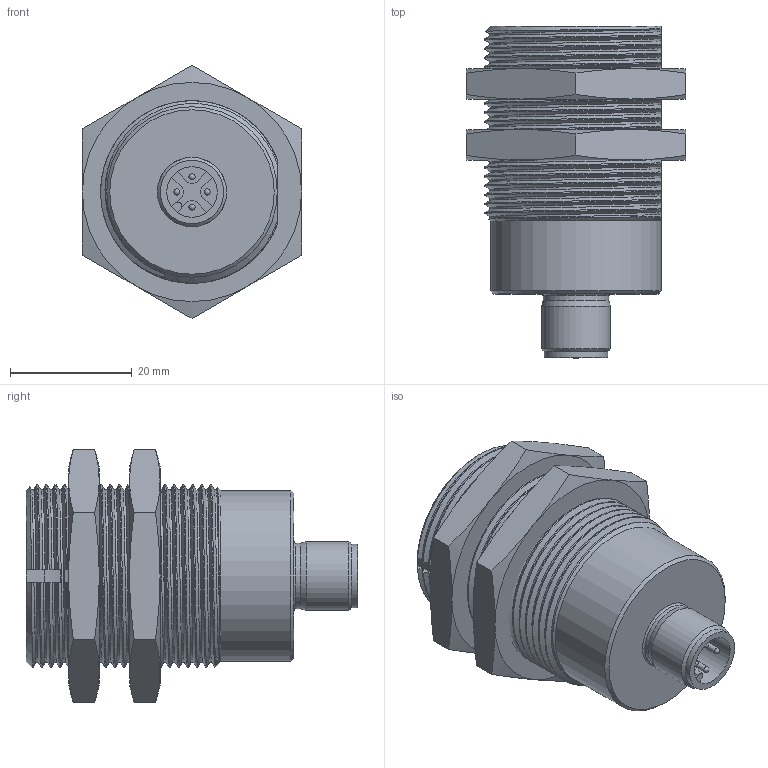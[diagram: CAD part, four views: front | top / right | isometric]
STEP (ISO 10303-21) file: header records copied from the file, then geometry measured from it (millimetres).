
FILE_DESCRIPTION(/* description */ ('Katalogmodell Elobau'),/* implementation_level */ '2;1');
FILE_NAME(/* name */ 'Katalogdaten.stp',/* time_stamp */ '2014-09-10T17:21:17+02:00',/* author */ ('Elobau GmbH & Co. KG'),/* organization */ ('Elobau GmbH & Co. KG'),/* preprocessor_version */ 'ST-DEVELOPER v15',/* originating_system */ 'SIEMENS PLM Software NX 8.5',/* authorisation */ '');
FILE_SCHEMA (('AUTOMOTIVE_DESIGN { 1 0 10303 214 3 1 1 1 }'));
Products named in the file (1): 171271VY03_B
Bounding box: 36 x 54.5 x 41.57 mm (x, y, z)
Volume: 40232.7 mm3; surface area: 13179 mm2
Topology: 3 solids, 3 shells, 194 faces, 528 edges, 338 vertices
Faces by surface type: cylinder 66, bspline 50, plane 43, cone 30, sphere 4, torus 1
Full cylindrical faces by diameter (mm): 1 x4, 8.3 x1, 10.4 x1, 10.8 x1, 11.35 x1, 28 x1
Entity records: 77400 total; most frequent: CARTESIAN_POINT 73299, ORIENTED_EDGE 990, DIRECTION 574, EDGE_CURVE 495, VERTEX_POINT 326, B_SPLINE_CURVE_WITH_KNOTS 281, AXIS2_PLACEMENT_3D 215, EDGE_LOOP 213
